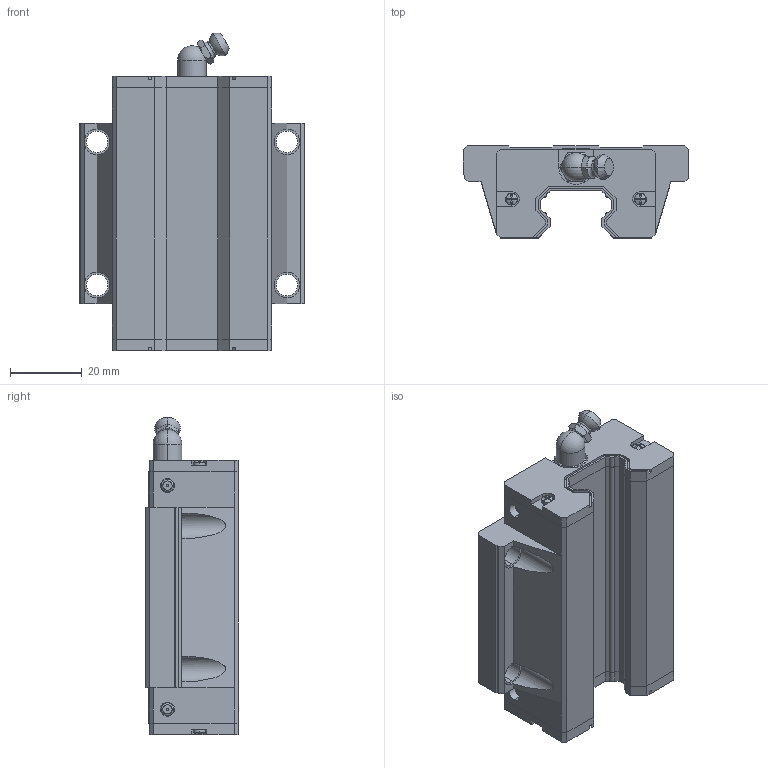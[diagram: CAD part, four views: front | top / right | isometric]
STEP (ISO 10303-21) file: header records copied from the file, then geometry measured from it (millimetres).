
FILE_DESCRIPTION (( 'STEP AP203' ), '1' );
FILE_NAME ('HGW20CC.STEP', '2021-10-22T07:52:30', ( '微软用户' ), ( '微软中国' ), 'SwSTEP 2.0', 'SolidWorks 2012', '' );
FILE_SCHEMA (( 'CONFIG_CONTROL_DESIGN' ));
Length unit declared in the file: millimetre
Products named in the file (1): HGW20CC
Bounding box: 63 x 25.7 x 88.7 mm (x, y, z)
Volume: 79001.7 mm3; surface area: 21495.2 mm2
Topology: 3 solids, 3 shells, 387 faces, 1032 edges, 673 vertices
Faces by surface type: plane 264, cylinder 74, cone 23, torus 20, sphere 6
Entity records: 12556 total; most frequent: CARTESIAN_POINT 2715, ORIENTED_EDGE 2056, DIRECTION 2005, EDGE_CURVE 1028, LINE 715, VECTOR 715, VERTEX_POINT 671, AXIS2_PLACEMENT_3D 645
